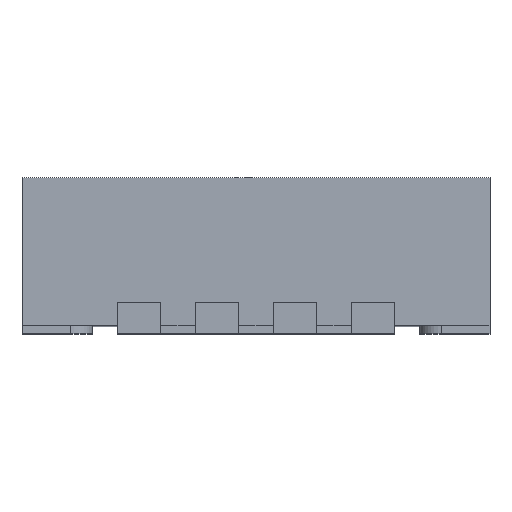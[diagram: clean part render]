
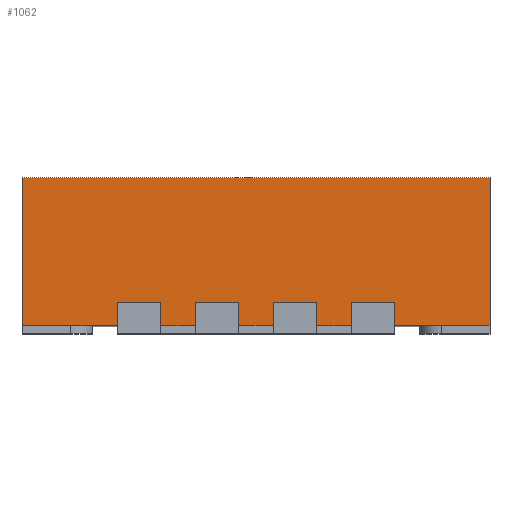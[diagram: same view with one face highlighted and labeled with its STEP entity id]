
A CAD part, top view. The second image highlights one B-rep face of the part: STEP entity #1062.
In plain terms, the highlighted planar face has unit normal (0, 0, 1).
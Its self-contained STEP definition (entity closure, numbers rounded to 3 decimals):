
#130 = VERTEX_POINT('',#131);
#131 = CARTESIAN_POINT('',(1.5,1.,1.5));
#137 = EDGE_CURVE('',#138,#130,#140,.T.);
#138 = VERTEX_POINT('',#139);
#139 = CARTESIAN_POINT('',(1.5,0.05,1.5));
#140 = LINE('',#141,#142);
#141 = CARTESIAN_POINT('',(1.5,0.,1.5));
#142 = VECTOR('',#143,1.);
#143 = DIRECTION('',(0.,1.,0.));
#553 = VERTEX_POINT('',#554);
#554 = CARTESIAN_POINT('',(-1.5,0.05,1.5));
#560 = EDGE_CURVE('',#561,#553,#563,.T.);
#561 = VERTEX_POINT('',#562);
#562 = CARTESIAN_POINT('',(-0.89,0.05,1.5));
#563 = LINE('',#564,#565);
#564 = CARTESIAN_POINT('',(1.5,0.05,1.5));
#565 = VECTOR('',#566,1.);
#566 = DIRECTION('',(-1.,0.,0.));
#586 = VERTEX_POINT('',#587);
#587 = CARTESIAN_POINT('',(-0.61,0.05,1.5));
#593 = EDGE_CURVE('',#594,#586,#596,.T.);
#594 = VERTEX_POINT('',#595);
#595 = CARTESIAN_POINT('',(-0.39,0.05,1.5));
#596 = LINE('',#597,#598);
#597 = CARTESIAN_POINT('',(1.5,0.05,1.5));
#598 = VECTOR('',#599,1.);
#599 = DIRECTION('',(-1.,0.,0.));
#619 = VERTEX_POINT('',#620);
#620 = CARTESIAN_POINT('',(-0.11,0.05,1.5));
#626 = EDGE_CURVE('',#627,#619,#629,.T.);
#627 = VERTEX_POINT('',#628);
#628 = CARTESIAN_POINT('',(0.11,0.05,1.5));
#629 = LINE('',#630,#631);
#630 = CARTESIAN_POINT('',(1.5,0.05,1.5));
#631 = VECTOR('',#632,1.);
#632 = DIRECTION('',(-1.,0.,0.));
#652 = VERTEX_POINT('',#653);
#653 = CARTESIAN_POINT('',(0.39,0.05,1.5));
#659 = EDGE_CURVE('',#660,#652,#662,.T.);
#660 = VERTEX_POINT('',#661);
#661 = CARTESIAN_POINT('',(0.61,0.05,1.5));
#662 = LINE('',#663,#664);
#663 = CARTESIAN_POINT('',(1.5,0.05,1.5));
#664 = VECTOR('',#665,1.);
#665 = DIRECTION('',(-1.,0.,0.));
#685 = VERTEX_POINT('',#686);
#686 = CARTESIAN_POINT('',(0.89,0.05,1.5));
#692 = EDGE_CURVE('',#138,#685,#693,.T.);
#693 = LINE('',#694,#695);
#694 = CARTESIAN_POINT('',(1.5,0.05,1.5));
#695 = VECTOR('',#696,1.);
#696 = DIRECTION('',(-1.,0.,0.));
#1062 = ADVANCED_FACE('',(#1063),#1173,.T.);
#1063 = FACE_BOUND('',#1064,.T.);
#1064 = EDGE_LOOP('',(#1065,#1066,#1067,#1075,#1081,#1082,#1090,#1098,
    #1104,#1105,#1113,#1121,#1127,#1128,#1136,#1144,#1150,#1151,#1159,
    #1167));
#1065 = ORIENTED_EDGE('',*,*,#692,.F.);
#1066 = ORIENTED_EDGE('',*,*,#137,.T.);
#1067 = ORIENTED_EDGE('',*,*,#1068,.T.);
#1068 = EDGE_CURVE('',#130,#1069,#1071,.T.);
#1069 = VERTEX_POINT('',#1070);
#1070 = CARTESIAN_POINT('',(-1.5,1.,1.5));
#1071 = LINE('',#1072,#1073);
#1072 = CARTESIAN_POINT('',(1.5,1.,1.5));
#1073 = VECTOR('',#1074,1.);
#1074 = DIRECTION('',(-1.,0.,0.));
#1075 = ORIENTED_EDGE('',*,*,#1076,.F.);
#1076 = EDGE_CURVE('',#553,#1069,#1077,.T.);
#1077 = LINE('',#1078,#1079);
#1078 = CARTESIAN_POINT('',(-1.5,0.,1.5));
#1079 = VECTOR('',#1080,1.);
#1080 = DIRECTION('',(0.,1.,0.));
#1081 = ORIENTED_EDGE('',*,*,#560,.F.);
#1082 = ORIENTED_EDGE('',*,*,#1083,.T.);
#1083 = EDGE_CURVE('',#561,#1084,#1086,.T.);
#1084 = VERTEX_POINT('',#1085);
#1085 = CARTESIAN_POINT('',(-0.89,0.2,1.5));
#1086 = LINE('',#1087,#1088);
#1087 = CARTESIAN_POINT('',(-0.89,0.,1.5));
#1088 = VECTOR('',#1089,1.);
#1089 = DIRECTION('',(0.,1.,0.));
#1090 = ORIENTED_EDGE('',*,*,#1091,.T.);
#1091 = EDGE_CURVE('',#1084,#1092,#1094,.T.);
#1092 = VERTEX_POINT('',#1093);
#1093 = CARTESIAN_POINT('',(-0.61,0.2,1.5));
#1094 = LINE('',#1095,#1096);
#1095 = CARTESIAN_POINT('',(-0.89,0.2,1.5));
#1096 = VECTOR('',#1097,1.);
#1097 = DIRECTION('',(1.,0.,0.));
#1098 = ORIENTED_EDGE('',*,*,#1099,.F.);
#1099 = EDGE_CURVE('',#586,#1092,#1100,.T.);
#1100 = LINE('',#1101,#1102);
#1101 = CARTESIAN_POINT('',(-0.61,0.,1.5));
#1102 = VECTOR('',#1103,1.);
#1103 = DIRECTION('',(0.,1.,0.));
#1104 = ORIENTED_EDGE('',*,*,#593,.F.);
#1105 = ORIENTED_EDGE('',*,*,#1106,.T.);
#1106 = EDGE_CURVE('',#594,#1107,#1109,.T.);
#1107 = VERTEX_POINT('',#1108);
#1108 = CARTESIAN_POINT('',(-0.39,0.2,1.5));
#1109 = LINE('',#1110,#1111);
#1110 = CARTESIAN_POINT('',(-0.39,0.,1.5));
#1111 = VECTOR('',#1112,1.);
#1112 = DIRECTION('',(0.,1.,0.));
#1113 = ORIENTED_EDGE('',*,*,#1114,.T.);
#1114 = EDGE_CURVE('',#1107,#1115,#1117,.T.);
#1115 = VERTEX_POINT('',#1116);
#1116 = CARTESIAN_POINT('',(-0.11,0.2,1.5));
#1117 = LINE('',#1118,#1119);
#1118 = CARTESIAN_POINT('',(-0.39,0.2,1.5));
#1119 = VECTOR('',#1120,1.);
#1120 = DIRECTION('',(1.,0.,0.));
#1121 = ORIENTED_EDGE('',*,*,#1122,.F.);
#1122 = EDGE_CURVE('',#619,#1115,#1123,.T.);
#1123 = LINE('',#1124,#1125);
#1124 = CARTESIAN_POINT('',(-0.11,0.,1.5));
#1125 = VECTOR('',#1126,1.);
#1126 = DIRECTION('',(0.,1.,0.));
#1127 = ORIENTED_EDGE('',*,*,#626,.F.);
#1128 = ORIENTED_EDGE('',*,*,#1129,.T.);
#1129 = EDGE_CURVE('',#627,#1130,#1132,.T.);
#1130 = VERTEX_POINT('',#1131);
#1131 = CARTESIAN_POINT('',(0.11,0.2,1.5));
#1132 = LINE('',#1133,#1134);
#1133 = CARTESIAN_POINT('',(0.11,0.,1.5));
#1134 = VECTOR('',#1135,1.);
#1135 = DIRECTION('',(0.,1.,0.));
#1136 = ORIENTED_EDGE('',*,*,#1137,.T.);
#1137 = EDGE_CURVE('',#1130,#1138,#1140,.T.);
#1138 = VERTEX_POINT('',#1139);
#1139 = CARTESIAN_POINT('',(0.39,0.2,1.5));
#1140 = LINE('',#1141,#1142);
#1141 = CARTESIAN_POINT('',(0.11,0.2,1.5));
#1142 = VECTOR('',#1143,1.);
#1143 = DIRECTION('',(1.,0.,0.));
#1144 = ORIENTED_EDGE('',*,*,#1145,.F.);
#1145 = EDGE_CURVE('',#652,#1138,#1146,.T.);
#1146 = LINE('',#1147,#1148);
#1147 = CARTESIAN_POINT('',(0.39,0.,1.5));
#1148 = VECTOR('',#1149,1.);
#1149 = DIRECTION('',(0.,1.,0.));
#1150 = ORIENTED_EDGE('',*,*,#659,.F.);
#1151 = ORIENTED_EDGE('',*,*,#1152,.T.);
#1152 = EDGE_CURVE('',#660,#1153,#1155,.T.);
#1153 = VERTEX_POINT('',#1154);
#1154 = CARTESIAN_POINT('',(0.61,0.2,1.5));
#1155 = LINE('',#1156,#1157);
#1156 = CARTESIAN_POINT('',(0.61,0.,1.5));
#1157 = VECTOR('',#1158,1.);
#1158 = DIRECTION('',(0.,1.,0.));
#1159 = ORIENTED_EDGE('',*,*,#1160,.T.);
#1160 = EDGE_CURVE('',#1153,#1161,#1163,.T.);
#1161 = VERTEX_POINT('',#1162);
#1162 = CARTESIAN_POINT('',(0.89,0.2,1.5));
#1163 = LINE('',#1164,#1165);
#1164 = CARTESIAN_POINT('',(0.61,0.2,1.5));
#1165 = VECTOR('',#1166,1.);
#1166 = DIRECTION('',(1.,0.,0.));
#1167 = ORIENTED_EDGE('',*,*,#1168,.F.);
#1168 = EDGE_CURVE('',#685,#1161,#1169,.T.);
#1169 = LINE('',#1170,#1171);
#1170 = CARTESIAN_POINT('',(0.89,0.,1.5));
#1171 = VECTOR('',#1172,1.);
#1172 = DIRECTION('',(0.,1.,0.));
#1173 = PLANE('',#1174);
#1174 = AXIS2_PLACEMENT_3D('',#1175,#1176,#1177);
#1175 = CARTESIAN_POINT('',(1.5,0.,1.5));
#1176 = DIRECTION('',(0.,0.,1.));
#1177 = DIRECTION('',(-1.,0.,0.));
